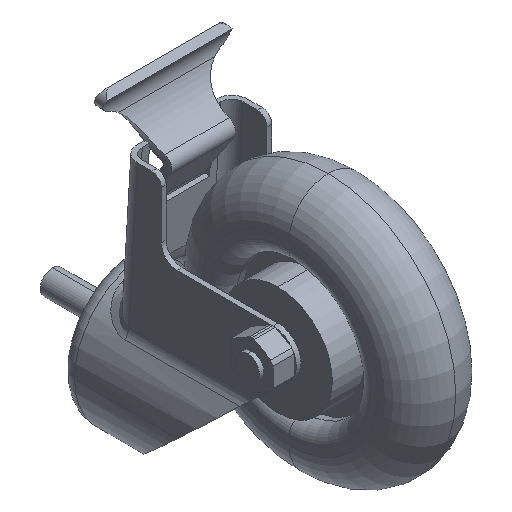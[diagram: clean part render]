
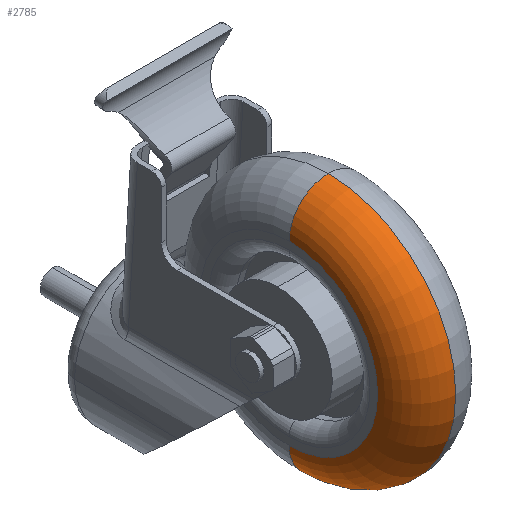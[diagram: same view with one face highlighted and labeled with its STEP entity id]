
A CAD part, isometric view. The second image highlights one B-rep face of the part: STEP entity #2785.
In plain terms, the highlighted toroidal (fillet/blend) face has major radius 35.242 mm and minor radius 15.557 mm.
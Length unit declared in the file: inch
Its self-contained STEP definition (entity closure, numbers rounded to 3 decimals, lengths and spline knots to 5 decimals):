
#87 = VERTEX_POINT ( 'NONE', #2123 ) ;
#103 = CARTESIAN_POINT ( 'NONE',  ( 0., -3.2, 1.63 ) ) ;
#126 = CIRCLE ( 'NONE', #3767, 0.6125 ) ;
#201 = CARTESIAN_POINT ( 'NONE',  ( 0., -3.2, 3.63 ) ) ;
#347 = DIRECTION ( 'NONE',  ( 0., 0., 1. ) ) ;
#556 = AXIS2_PLACEMENT_3D ( 'NONE', #3879, #2740, #2351 ) ;
#747 = EDGE_CURVE ( 'NONE', #2595, #3735, #4058, .T. ) ;
#831 = FACE_OUTER_BOUND ( 'NONE', #1164, .T. ) ;
#1164 = EDGE_LOOP ( 'NONE', ( #2272, #4346, #1581, #1832 ) ) ;
#1224 = DIRECTION ( 'NONE',  ( 0., 0., 1. ) ) ;
#1581 = ORIENTED_EDGE ( 'NONE', *, *, #747, .T. ) ;
#1817 = CIRCLE ( 'NONE', #3919, 2. ) ;
#1819 = AXIS2_PLACEMENT_3D ( 'NONE', #2892, #2945, #4042 ) ;
#1832 = ORIENTED_EDGE ( 'NONE', *, *, #4687, .F. ) ;
#2123 = CARTESIAN_POINT ( 'NONE',  ( -0.6125, -3.2, 0.2425 ) ) ;
#2191 = CARTESIAN_POINT ( 'NONE',  ( 0., -3.2, -0.37 ) ) ;
#2272 = ORIENTED_EDGE ( 'NONE', *, *, #3170, .F. ) ;
#2351 = DIRECTION ( 'NONE',  ( 0., 0., -1. ) ) ;
#2373 = AXIS2_PLACEMENT_3D ( 'NONE', #103, #4564, #1224 ) ;
#2539 = EDGE_CURVE ( 'NONE', #2595, #3231, #1817, .T. ) ;
#2595 = VERTEX_POINT ( 'NONE', #201 ) ;
#2740 = DIRECTION ( 'NONE',  ( 0., -1., 0. ) ) ;
#2761 = DIRECTION ( 'NONE',  ( 1., 0., 0. ) ) ;
#2785 = ADVANCED_FACE ( 'NONE', ( #831 ), #4473, .T. ) ;
#2892 = CARTESIAN_POINT ( 'NONE',  ( -0.6125, -3.2, 1.63 ) ) ;
#2945 = DIRECTION ( 'NONE',  ( -1., 0., 0. ) ) ;
#3103 = CARTESIAN_POINT ( 'NONE',  ( 0., -3.2, 1.63 ) ) ;
#3170 = EDGE_CURVE ( 'NONE', #3231, #87, #126, .T. ) ;
#3231 = VERTEX_POINT ( 'NONE', #2191 ) ;
#3533 = DIRECTION ( 'NONE',  ( 0., 0., 1. ) ) ;
#3629 = CARTESIAN_POINT ( 'NONE',  ( 0., -3.2, 0.2425 ) ) ;
#3700 = DIRECTION ( 'NONE',  ( 0., 1., 0. ) ) ;
#3735 = VERTEX_POINT ( 'NONE', #4012 ) ;
#3767 = AXIS2_PLACEMENT_3D ( 'NONE', #3629, #3700, #347 ) ;
#3879 = CARTESIAN_POINT ( 'NONE',  ( 0., -3.2, 3.0175 ) ) ;
#3919 = AXIS2_PLACEMENT_3D ( 'NONE', #3103, #2761, #3533 ) ;
#3923 = CIRCLE ( 'NONE', #1819, 1.3875 ) ;
#4012 = CARTESIAN_POINT ( 'NONE',  ( -0.6125, -3.2, 3.0175 ) ) ;
#4042 = DIRECTION ( 'NONE',  ( 0., 0., 1. ) ) ;
#4058 = CIRCLE ( 'NONE', #556, 0.6125 ) ;
#4346 = ORIENTED_EDGE ( 'NONE', *, *, #2539, .F. ) ;
#4473 = TOROIDAL_SURFACE ( 'NONE', #2373, 1.3875, 0.6125 ) ;
#4564 = DIRECTION ( 'NONE',  ( -1., 0., 0. ) ) ;
#4687 = EDGE_CURVE ( 'NONE', #87, #3735, #3923, .T. ) ;
